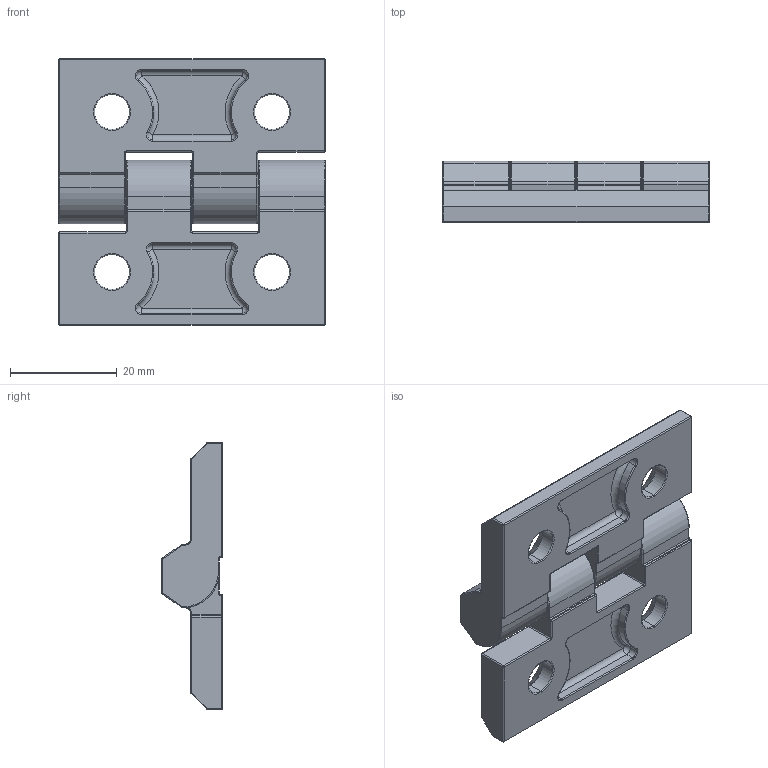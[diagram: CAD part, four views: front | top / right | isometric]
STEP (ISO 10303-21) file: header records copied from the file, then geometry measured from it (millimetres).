
FILE_DESCRIPTION (( 'STEP AP214' ), '1' );
FILE_NAME ('HGS-226-MP-2.STEP', '2019-11-11T09:00:03', ( '' ), ( '' ), 'SwSTEP 2.0', 'SolidWorks 2010', '' );
FILE_SCHEMA (( 'AUTOMOTIVE_DESIGN' ));
Length unit declared in the file: millimetre
Products named in the file (3): 鉸鏈片; 插銷; HGS-226-MP-2
Assembly tree (3 placements, depth 2):
  HGS-226-MP-2
    插銷
    鉸鏈片  x2
Bounding box: 50 x 11.5 x 50 mm (x, y, z)
Volume: 13477.7 mm3; surface area: 9086.8 mm2
Topology: 3 solids, 3 shells, 392 faces, 892 edges, 480 vertices
Faces by surface type: cylinder 168, torus 128, plane 54, sphere 34, cone 8
Entity records: 5508 total; most frequent: DIRECTION 1114, CARTESIAN_POINT 876, ORIENTED_EDGE 864, AXIS2_PLACEMENT_3D 478, EDGE_CURVE 432, CIRCLE 274, VERTEX_POINT 240, EDGE_LOOP 206
